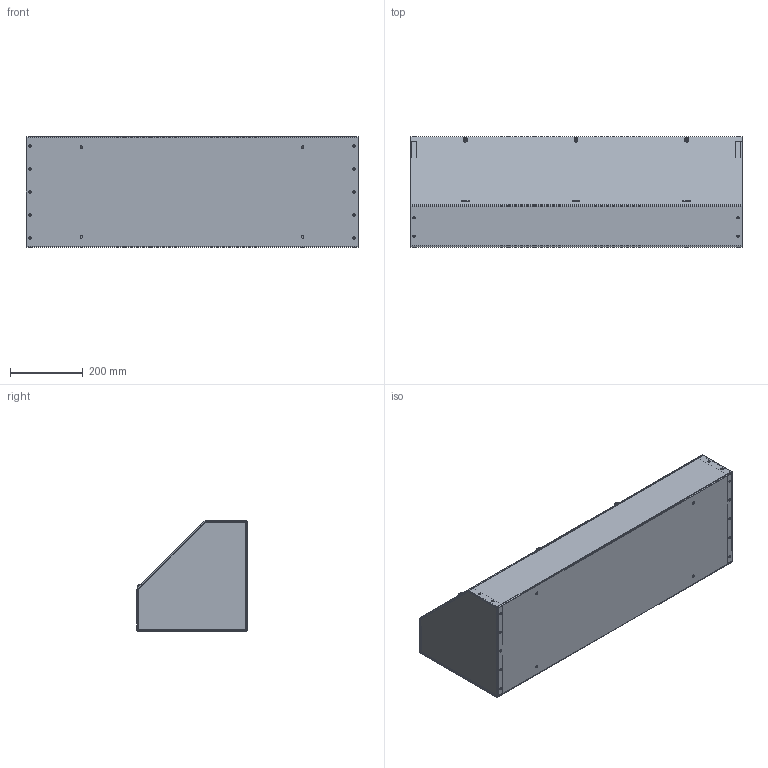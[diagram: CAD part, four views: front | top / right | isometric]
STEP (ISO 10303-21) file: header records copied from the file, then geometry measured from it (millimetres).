
FILE_DESCRIPTION (( 'STEP AP203' ), '1' );
FILE_NAME ('at121236.STEP', '2017-10-03T21:31:22', ( '' ), ( '' ), 'SwSTEP 2.0', 'SolidWorks 2014', '' );
FILE_SCHEMA (( 'CONFIG_CONTROL_DESIGN' ));
Length unit declared in the file: inch
Products named in the file (8): 89159124; 16111002_INSTALLED .144 THICKNESS; 89159161; 89159140; 87791796_PANHTS 0.19-32-type I-F-0.563-S; 87780048; at121236; 89159117
Assembly tree (37 placements, depth 3):
  at121236
    89159161
      89159117
      89159124  x2
      16111002_INSTALLED .144 THICKNESS  x28
    89159140
    87791796_PANHTS 0.19-32-type I-F-0.563-S  x3
    87780048
Bounding box: 914.4 x 306.63 x 306.63 mm (x, y, z)
Volume: 2220793.9 mm3; surface area: 2457181.2 mm2
Topology: 36 solids, 36 shells, 1506 faces, 3689 edges, 2283 vertices
Faces by surface type: plane 722, cylinder 458, cone 174, bspline 128, torus 24
Entity records: 20415 total; most frequent: CARTESIAN_POINT 3933, DIRECTION 3121, ORIENTED_EDGE 3096, EDGE_CURVE 1548, AXIS2_PLACEMENT_3D 1086, VERTEX_POINT 992, LINE 949, VECTOR 949
